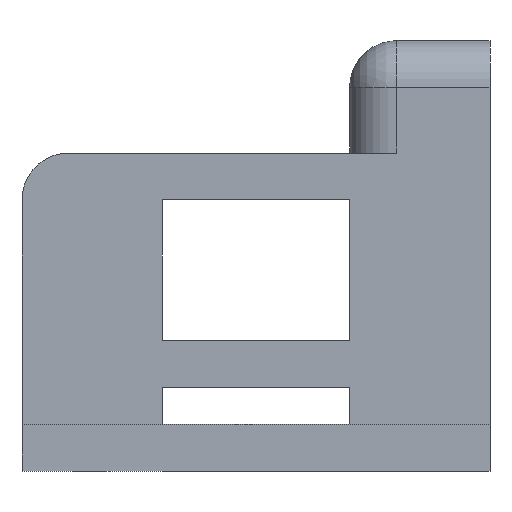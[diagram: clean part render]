
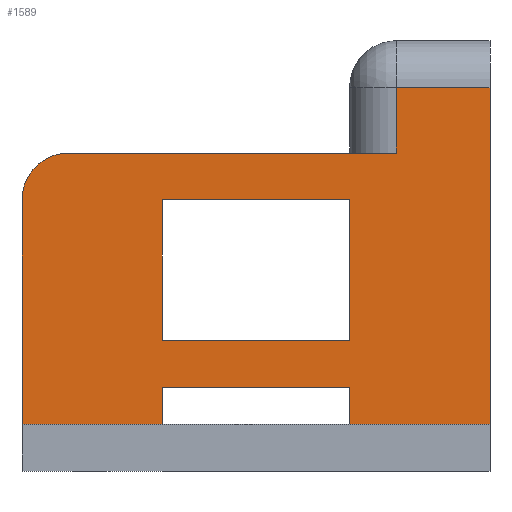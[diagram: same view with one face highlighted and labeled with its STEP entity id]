
A CAD part, front view. The second image highlights one B-rep face of the part: STEP entity #1589.
In plain terms, the highlighted planar face has unit normal (0, -1, 0).
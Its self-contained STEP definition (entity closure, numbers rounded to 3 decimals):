
#97=CARTESIAN_POINT('Line Origine',(15.,0.,-39.)) ;
#101=CARTESIAN_POINT('Vertex',(15.,0.,-37.)) ;
#103=CARTESIAN_POINT('Vertex',(15.,0.,-41.)) ;
#251=CARTESIAN_POINT('Vertex',(15.,0.,-17.)) ;
#254=CARTESIAN_POINT('Line Origine',(15.,0.,-24.5)) ;
#258=CARTESIAN_POINT('Vertex',(15.,0.,-32.)) ;
#285=CARTESIAN_POINT('Line Origine',(25.,0.,-32.)) ;
#289=CARTESIAN_POINT('Vertex',(35.,0.,-32.)) ;
#338=CARTESIAN_POINT('Axis2P3D Location',(0.,0.,0.)) ;
#347=CARTESIAN_POINT('Vertex',(35.,0.,-41.)) ;
#533=CARTESIAN_POINT('Vertex',(35.,0.,-37.)) ;
#550=CARTESIAN_POINT('Line Origine',(35.,0.,-39.)) ;
#969=CARTESIAN_POINT('Line Origine',(35.,0.,-24.5)) ;
#973=CARTESIAN_POINT('Vertex',(35.,0.,-17.)) ;
#1044=CARTESIAN_POINT('Vertex',(0.,0.,-41.)) ;
#1051=CARTESIAN_POINT('Vertex',(50.,0.,-41.)) ;
#1054=CARTESIAN_POINT('Line Origine',(42.5,0.,-41.)) ;
#1059=CARTESIAN_POINT('Line Origine',(7.5,0.,-41.)) ;
#1235=CARTESIAN_POINT('Vertex',(50.,0.,-5.)) ;
#1238=CARTESIAN_POINT('Line Origine',(50.,0.,-23.)) ;
#1294=CARTESIAN_POINT('Line Origine',(25.,0.,-37.)) ;
#1323=CARTESIAN_POINT('Line Origine',(25.,0.,-17.)) ;
#1371=CARTESIAN_POINT('Vertex',(0.,0.,-17.)) ;
#1379=CARTESIAN_POINT('Line Origine',(0.,0.,-29.)) ;
#1427=CARTESIAN_POINT('Vertex',(5.,0.,-12.)) ;
#1430=CARTESIAN_POINT('Line Origine',(22.5,0.,-12.)) ;
#1434=CARTESIAN_POINT('Vertex',(40.,0.,-12.)) ;
#1491=CARTESIAN_POINT('Line Origine',(25.,0.,-5.)) ;
#1495=CARTESIAN_POINT('Vertex',(40.,0.,-5.)) ;
#1560=CARTESIAN_POINT('Axis2P3D Location',(5.,0.,-17.)) ;
#1565=CARTESIAN_POINT('Line Origine',(40.,0.,-8.5)) ;
#98=DIRECTION('Vector Direction',(0.,0.,-1.)) ;
#255=DIRECTION('Vector Direction',(0.,0.,-1.)) ;
#286=DIRECTION('Vector Direction',(1.,0.,0.)) ;
#339=DIRECTION('Axis2P3D Direction',(0.,-1.,0.)) ;
#340=DIRECTION('Axis2P3D XDirection',(0.,0.,-1.)) ;
#551=DIRECTION('Vector Direction',(0.,0.,-1.)) ;
#970=DIRECTION('Vector Direction',(0.,0.,-1.)) ;
#1055=DIRECTION('Vector Direction',(-1.,0.,0.)) ;
#1060=DIRECTION('Vector Direction',(-1.,0.,0.)) ;
#1239=DIRECTION('Vector Direction',(0.,0.,-1.)) ;
#1295=DIRECTION('Vector Direction',(1.,0.,0.)) ;
#1324=DIRECTION('Vector Direction',(-1.,0.,0.)) ;
#1380=DIRECTION('Vector Direction',(0.,0.,-1.)) ;
#1431=DIRECTION('Vector Direction',(-1.,0.,0.)) ;
#1492=DIRECTION('Vector Direction',(1.,0.,0.)) ;
#1561=DIRECTION('Axis2P3D Direction',(0.,-1.,0.)) ;
#1566=DIRECTION('Vector Direction',(0.,0.,-1.)) ;
#341=AXIS2_PLACEMENT_3D('Plane Axis2P3D',#338,#339,#340) ;
#1562=AXIS2_PLACEMENT_3D('Circle Axis2P3D',#1560,#1561,$) ;
#1571=ORIENTED_EDGE('',*,*,#1436,.F.) ;
#1572=ORIENTED_EDGE('',*,*,#1564,.F.) ;
#1573=ORIENTED_EDGE('',*,*,#1383,.T.) ;
#1574=ORIENTED_EDGE('',*,*,#1063,.F.) ;
#1575=ORIENTED_EDGE('',*,*,#105,.F.) ;
#1576=ORIENTED_EDGE('',*,*,#1298,.T.) ;
#1577=ORIENTED_EDGE('',*,*,#554,.T.) ;
#1578=ORIENTED_EDGE('',*,*,#1058,.F.) ;
#1579=ORIENTED_EDGE('',*,*,#1242,.F.) ;
#1580=ORIENTED_EDGE('',*,*,#1497,.F.) ;
#1581=ORIENTED_EDGE('',*,*,#1569,.F.) ;
#1584=ORIENTED_EDGE('',*,*,#291,.F.) ;
#1585=ORIENTED_EDGE('',*,*,#260,.F.) ;
#1586=ORIENTED_EDGE('',*,*,#1327,.F.) ;
#1587=ORIENTED_EDGE('',*,*,#975,.T.) ;
#1588=FACE_BOUND('',#1583,.T.) ;
#99=VECTOR('Line Direction',#98,1.) ;
#256=VECTOR('Line Direction',#255,1.) ;
#287=VECTOR('Line Direction',#286,1.) ;
#552=VECTOR('Line Direction',#551,1.) ;
#971=VECTOR('Line Direction',#970,1.) ;
#1056=VECTOR('Line Direction',#1055,1.) ;
#1061=VECTOR('Line Direction',#1060,1.) ;
#1240=VECTOR('Line Direction',#1239,1.) ;
#1296=VECTOR('Line Direction',#1295,1.) ;
#1325=VECTOR('Line Direction',#1324,1.) ;
#1381=VECTOR('Line Direction',#1380,1.) ;
#1432=VECTOR('Line Direction',#1431,1.) ;
#1493=VECTOR('Line Direction',#1492,1.) ;
#1567=VECTOR('Line Direction',#1566,1.) ;
#1589=ADVANCED_FACE('Hauptk\X2\00F6\X0\rper',(#1582,#1588),#342,.T.) ;
#1563=CIRCLE('generated circle',#1562,5.) ;
#105=EDGE_CURVE('',#102,#104,#100,.T.) ;
#260=EDGE_CURVE('',#252,#259,#257,.T.) ;
#291=EDGE_CURVE('',#259,#290,#288,.T.) ;
#554=EDGE_CURVE('',#534,#348,#553,.T.) ;
#975=EDGE_CURVE('',#974,#290,#972,.T.) ;
#1058=EDGE_CURVE('',#1052,#348,#1057,.T.) ;
#1063=EDGE_CURVE('',#104,#1045,#1062,.T.) ;
#1242=EDGE_CURVE('',#1236,#1052,#1241,.T.) ;
#1298=EDGE_CURVE('',#102,#534,#1297,.T.) ;
#1327=EDGE_CURVE('',#974,#252,#1326,.T.) ;
#1383=EDGE_CURVE('',#1372,#1045,#1382,.T.) ;
#1436=EDGE_CURVE('',#1428,#1435,#1433,.F.) ;
#1497=EDGE_CURVE('',#1496,#1236,#1494,.T.) ;
#1564=EDGE_CURVE('',#1372,#1428,#1563,.F.) ;
#1569=EDGE_CURVE('',#1435,#1496,#1568,.F.) ;
#1570=EDGE_LOOP('',(#1571,#1572,#1573,#1574,#1575,#1576,#1577,#1578,#1579,#1580,#1581)) ;
#1583=EDGE_LOOP('',(#1584,#1585,#1586,#1587)) ;
#1582=FACE_OUTER_BOUND('',#1570,.T.) ;
#100=LINE('Line',#97,#99) ;
#257=LINE('Line',#254,#256) ;
#288=LINE('Line',#285,#287) ;
#553=LINE('Line',#550,#552) ;
#972=LINE('Line',#969,#971) ;
#1057=LINE('Line',#1054,#1056) ;
#1062=LINE('Line',#1059,#1061) ;
#1241=LINE('Line',#1238,#1240) ;
#1297=LINE('Line',#1294,#1296) ;
#1326=LINE('Line',#1323,#1325) ;
#1382=LINE('Line',#1379,#1381) ;
#1433=LINE('Line',#1430,#1432) ;
#1494=LINE('Line',#1491,#1493) ;
#1568=LINE('Line',#1565,#1567) ;
#342=PLANE('',#341) ;
#102=VERTEX_POINT('',#101) ;
#104=VERTEX_POINT('',#103) ;
#252=VERTEX_POINT('',#251) ;
#259=VERTEX_POINT('',#258) ;
#290=VERTEX_POINT('',#289) ;
#348=VERTEX_POINT('',#347) ;
#534=VERTEX_POINT('',#533) ;
#974=VERTEX_POINT('',#973) ;
#1045=VERTEX_POINT('',#1044) ;
#1052=VERTEX_POINT('',#1051) ;
#1236=VERTEX_POINT('',#1235) ;
#1372=VERTEX_POINT('',#1371) ;
#1428=VERTEX_POINT('',#1427) ;
#1435=VERTEX_POINT('',#1434) ;
#1496=VERTEX_POINT('',#1495) ;
